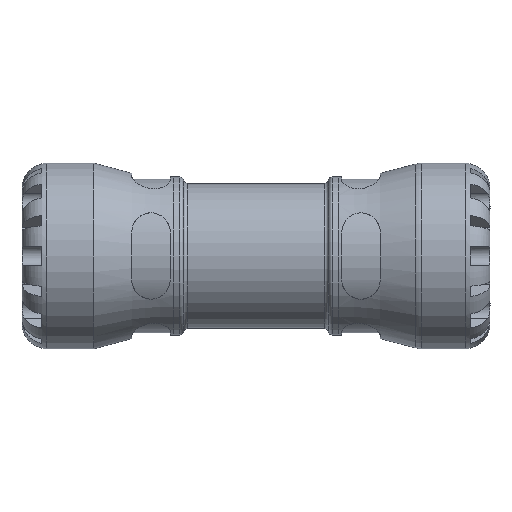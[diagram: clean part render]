
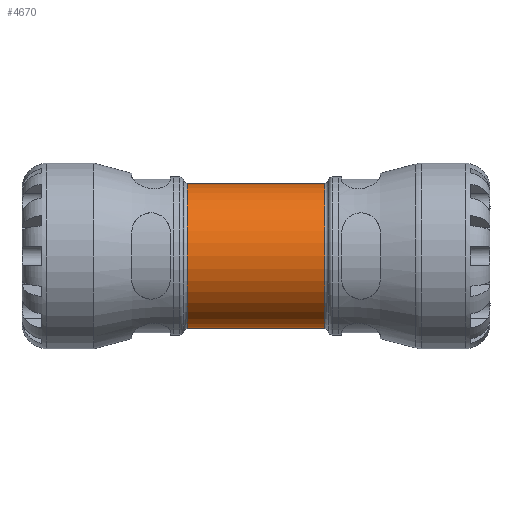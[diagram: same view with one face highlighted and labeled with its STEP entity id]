
A CAD part, front view. The second image highlights one B-rep face of the part: STEP entity #4670.
In plain terms, the highlighted cylindrical face has radius 33.15 mm (diameter 66.3 mm), a full revolution.
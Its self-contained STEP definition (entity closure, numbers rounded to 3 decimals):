
#684=FACE_BOUND('',#1119,.T.);
#685=FACE_BOUND('',#1120,.T.);
#732=CYLINDRICAL_SURFACE('',#4960,33.15);
#830=FACE_OUTER_BOUND('',#1118,.T.);
#1118=EDGE_LOOP('',(#3021));
#1119=EDGE_LOOP('',(#3022));
#1120=EDGE_LOOP('',(#3023));
#1451=B_SPLINE_CURVE_WITH_KNOTS('',3,(#6940,#6941,#6942,#6943,#6944,#6945,
#6946,#6947,#6948,#6949,#6950,#6951,#6952,#6953,#6954,#6955,#6956,#6957,
#6958,#6959,#6960,#6961,#6962),.UNSPECIFIED.,.T.,.F.,(4,1,1,1,1,1,1,1,1,
1,1,1,1,1,1,1,1,1,1,1,4),(-14.237,-13.729,-13.22,
-12.203,-11.525,-10.847,-10.17,
-9.492,-8.814,-8.136,-7.458,
-6.78,-6.102,-4.746,-4.068,
-3.39,-2.712,-2.034,-1.017,
-0.508,0.),.UNSPECIFIED.);
#1647=CIRCLE('',#4961,33.15);
#1648=CIRCLE('',#4962,33.15);
#1892=VERTEX_POINT('',#6914);
#1895=VERTEX_POINT('',#6967);
#1896=VERTEX_POINT('',#6969);
#2335=EDGE_CURVE('',#1892,#1892,#1451,.T.);
#2337=EDGE_CURVE('',#1895,#1895,#1647,.T.);
#2338=EDGE_CURVE('',#1896,#1896,#1648,.T.);
#3021=ORIENTED_EDGE('',*,*,#2337,.F.);
#3022=ORIENTED_EDGE('',*,*,#2338,.F.);
#3023=ORIENTED_EDGE('',*,*,#2335,.F.);
#4670=ADVANCED_FACE('',(#830,#684,#685),#732,.T.);
#4960=AXIS2_PLACEMENT_3D('',#6966,#5498,#5499);
#4961=AXIS2_PLACEMENT_3D('',#6968,#5500,#5501);
#4962=AXIS2_PLACEMENT_3D('',#6970,#5502,#5503);
#5498=DIRECTION('center_axis',(1.,0.,0.));
#5499=DIRECTION('ref_axis',(0.,1.,0.));
#5500=DIRECTION('center_axis',(-1.,0.,0.));
#5501=DIRECTION('ref_axis',(0.,1.,0.));
#5502=DIRECTION('center_axis',(1.,0.,0.));
#5503=DIRECTION('ref_axis',(0.,1.,0.));
#6914=CARTESIAN_POINT('',(0.022,23.985,22.883));
#6940=CARTESIAN_POINT('Ctrl Pts',(0.022,23.984,22.883));
#6941=CARTESIAN_POINT('Ctrl Pts',(1.845,23.986,22.882));
#6942=CARTESIAN_POINT('Ctrl Pts',(5.49,24.401,22.457));
#6943=CARTESIAN_POINT('Ctrl Pts',(12.101,26.473,20.103));
#6944=CARTESIAN_POINT('Ctrl Pts',(17.89,29.573,15.583));
#6945=CARTESIAN_POINT('Ctrl Pts',(22.079,32.208,8.744));
#6946=CARTESIAN_POINT('Ctrl Pts',(23.786,33.367,1.8));
#6947=CARTESIAN_POINT('Ctrl Pts',(23.191,32.957,-5.413));
#6948=CARTESIAN_POINT('Ctrl Pts',(20.464,31.163,-11.872));
#6949=CARTESIAN_POINT('Ctrl Pts',(16.116,28.58,-17.066));
#6950=CARTESIAN_POINT('Ctrl Pts',(10.501,25.888,-20.827));
#6951=CARTESIAN_POINT('Ctrl Pts',(3.718,23.91,-22.971));
#6952=CARTESIAN_POINT('Ctrl Pts',(-3.769,23.905,-22.968));
#6953=CARTESIAN_POINT('Ctrl Pts',(-12.775,26.584,-20.086));
#6954=CARTESIAN_POINT('Ctrl Pts',(-19.561,30.589,-13.992));
#6955=CARTESIAN_POINT('Ctrl Pts',(-23.209,32.961,-5.371));
#6956=CARTESIAN_POINT('Ctrl Pts',(-23.778,33.366,1.844));
#6957=CARTESIAN_POINT('Ctrl Pts',(-22.064,32.197,8.783));
#6958=CARTESIAN_POINT('Ctrl Pts',(-17.861,29.556,15.614));
#6959=CARTESIAN_POINT('Ctrl Pts',(-12.065,26.457,20.124));
#6960=CARTESIAN_POINT('Ctrl Pts',(-5.447,24.391,22.467));
#6961=CARTESIAN_POINT('Ctrl Pts',(-1.801,23.983,22.885));
#6962=CARTESIAN_POINT('Ctrl Pts',(0.022,23.984,22.883));
#6966=CARTESIAN_POINT('Origin',(16.575,0.,0.));
#6967=CARTESIAN_POINT('',(-31.477,-33.15,0.));
#6968=CARTESIAN_POINT('Origin',(-31.477,0.,0.));
#6969=CARTESIAN_POINT('',(31.477,-33.15,0.));
#6970=CARTESIAN_POINT('Origin',(31.477,0.,0.));
